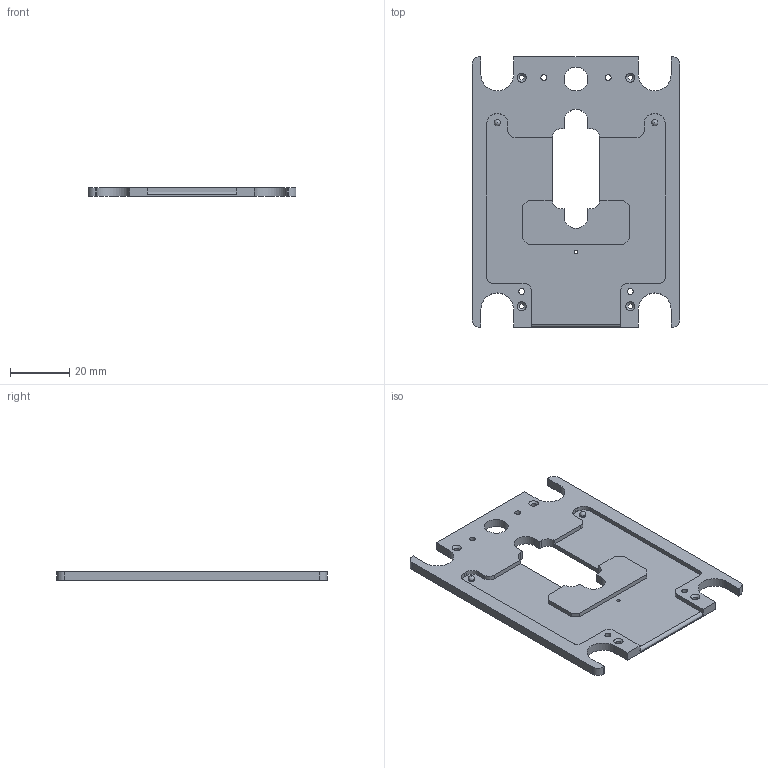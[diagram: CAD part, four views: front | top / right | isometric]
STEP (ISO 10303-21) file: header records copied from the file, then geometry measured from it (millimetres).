
FILE_DESCRIPTION(('FreeCAD Model'),'2;1');
FILE_NAME('Open CASCADE Shape Model','2025-06-08T14:25:29',(''),(''), 'Open CASCADE STEP processor 7.6','FreeCAD','Unknown');
FILE_SCHEMA(('CONFIG_CONTROL_DESIGN','SHAPE_APPEARANCE_LAYER_MIM'));
Length unit declared in the file: millimetre
Products named in the file (1): SmallCCDContainerMiddle
Bounding box: 70 x 91 x 3 mm (x, y, z)
Volume: 12029.3 mm3; surface area: 12680.4 mm2
Topology: 1 solids, 1 shells, 96 faces, 273 edges, 180 vertices
Faces by surface type: plane 53, cylinder 37, cone 4, sphere 2
Full cylindrical faces by diameter (mm): 1.1 x1, 1.7 x4, 2 x6, 8 x1
Entity records: 3772 total; most frequent: CARTESIAN_POINT 548, DIRECTION 547, ORIENTED_EDGE 542, EDGE_CURVE 271, LINE 189, VECTOR 189, VERTEX_POINT 180, AXIS2_PLACEMENT_3D 179
